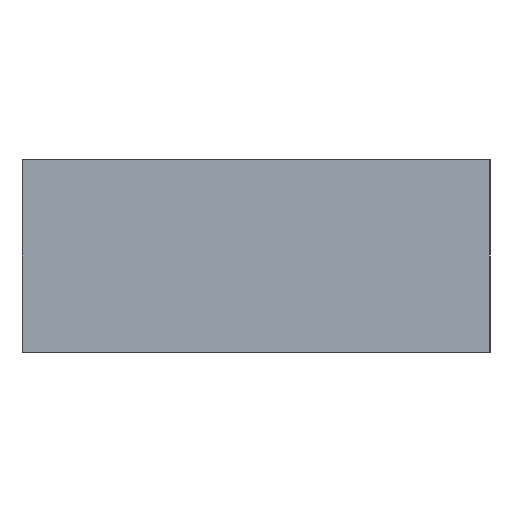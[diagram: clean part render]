
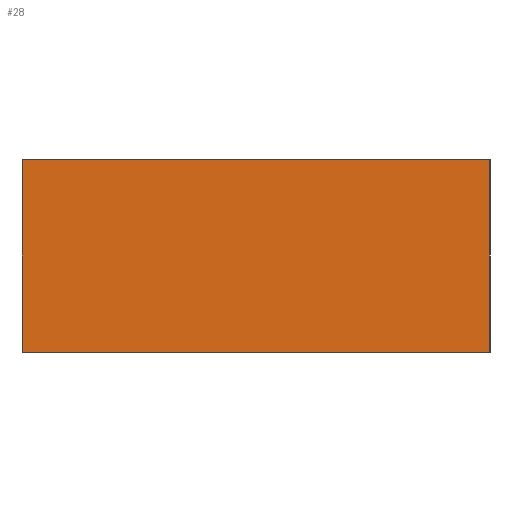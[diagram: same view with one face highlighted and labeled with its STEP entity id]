
A CAD part, left-side view. The second image highlights one B-rep face of the part: STEP entity #28.
In plain terms, the highlighted planar face has unit normal (-1, 0, 0).
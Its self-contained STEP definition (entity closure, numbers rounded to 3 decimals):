
#28 = ADVANCED_FACE('',(#29),#43,.F.);
#29 = FACE_BOUND('',#30,.F.);
#30 = EDGE_LOOP('',(#31,#66,#94,#122));
#31 = ORIENTED_EDGE('',*,*,#32,.T.);
#32 = EDGE_CURVE('',#33,#35,#37,.T.);
#33 = VERTEX_POINT('',#34);
#34 = CARTESIAN_POINT('',(0.,8.,0.));
#35 = VERTEX_POINT('',#36);
#36 = CARTESIAN_POINT('',(0.,8.,3.291));
#37 = SURFACE_CURVE('',#38,(#42,#54),.PCURVE_S1.);
#38 = LINE('',#39,#40);
#39 = CARTESIAN_POINT('',(0.,8.,0.));
#40 = VECTOR('',#41,1.);
#41 = DIRECTION('',(0.,0.,1.));
#42 = PCURVE('',#43,#48);
#43 = PLANE('',#44);
#44 = AXIS2_PLACEMENT_3D('',#45,#46,#47);
#45 = CARTESIAN_POINT('',(0.,8.,0.));
#46 = DIRECTION('',(1.,0.,0.));
#47 = DIRECTION('',(0.,-1.,0.));
#48 = DEFINITIONAL_REPRESENTATION('',(#49),#53);
#49 = LINE('',#50,#51);
#50 = CARTESIAN_POINT('',(0.,0.));
#51 = VECTOR('',#52,1.);
#52 = DIRECTION('',(0.,-1.));
#53 = ( GEOMETRIC_REPRESENTATION_CONTEXT(2) 
PARAMETRIC_REPRESENTATION_CONTEXT() REPRESENTATION_CONTEXT('2D SPACE',''
  ) );
#54 = PCURVE('',#55,#60);
#55 = PLANE('',#56);
#56 = AXIS2_PLACEMENT_3D('',#57,#58,#59);
#57 = CARTESIAN_POINT('',(35.,8.,0.));
#58 = DIRECTION('',(0.,-1.,0.));
#59 = DIRECTION('',(-1.,0.,0.));
#60 = DEFINITIONAL_REPRESENTATION('',(#61),#65);
#61 = LINE('',#62,#63);
#62 = CARTESIAN_POINT('',(35.,0.));
#63 = VECTOR('',#64,1.);
#64 = DIRECTION('',(0.,-1.));
#65 = ( GEOMETRIC_REPRESENTATION_CONTEXT(2) 
PARAMETRIC_REPRESENTATION_CONTEXT() REPRESENTATION_CONTEXT('2D SPACE',''
  ) );
#66 = ORIENTED_EDGE('',*,*,#67,.T.);
#67 = EDGE_CURVE('',#35,#68,#70,.T.);
#68 = VERTEX_POINT('',#69);
#69 = CARTESIAN_POINT('',(0.,0.,3.291));
#70 = SURFACE_CURVE('',#71,(#75,#82),.PCURVE_S1.);
#71 = LINE('',#72,#73);
#72 = CARTESIAN_POINT('',(0.,8.,3.291));
#73 = VECTOR('',#74,1.);
#74 = DIRECTION('',(0.,-1.,0.));
#75 = PCURVE('',#43,#76);
#76 = DEFINITIONAL_REPRESENTATION('',(#77),#81);
#77 = LINE('',#78,#79);
#78 = CARTESIAN_POINT('',(0.,-3.291));
#79 = VECTOR('',#80,1.);
#80 = DIRECTION('',(1.,0.));
#81 = ( GEOMETRIC_REPRESENTATION_CONTEXT(2) 
PARAMETRIC_REPRESENTATION_CONTEXT() REPRESENTATION_CONTEXT('2D SPACE',''
  ) );
#82 = PCURVE('',#83,#88);
#83 = PLANE('',#84);
#84 = AXIS2_PLACEMENT_3D('',#85,#86,#87);
#85 = CARTESIAN_POINT('',(0.,8.,3.291));
#86 = DIRECTION('',(0.,0.,-1.));
#87 = DIRECTION('',(-1.,0.,0.));
#88 = DEFINITIONAL_REPRESENTATION('',(#89),#93);
#89 = LINE('',#90,#91);
#90 = CARTESIAN_POINT('',(0.,0.));
#91 = VECTOR('',#92,1.);
#92 = DIRECTION('',(0.,-1.));
#93 = ( GEOMETRIC_REPRESENTATION_CONTEXT(2) 
PARAMETRIC_REPRESENTATION_CONTEXT() REPRESENTATION_CONTEXT('2D SPACE',''
  ) );
#94 = ORIENTED_EDGE('',*,*,#95,.F.);
#95 = EDGE_CURVE('',#96,#68,#98,.T.);
#96 = VERTEX_POINT('',#97);
#97 = CARTESIAN_POINT('',(0.,0.,0.));
#98 = SURFACE_CURVE('',#99,(#103,#110),.PCURVE_S1.);
#99 = LINE('',#100,#101);
#100 = CARTESIAN_POINT('',(0.,0.,0.));
#101 = VECTOR('',#102,1.);
#102 = DIRECTION('',(0.,0.,1.));
#103 = PCURVE('',#43,#104);
#104 = DEFINITIONAL_REPRESENTATION('',(#105),#109);
#105 = LINE('',#106,#107);
#106 = CARTESIAN_POINT('',(8.,0.));
#107 = VECTOR('',#108,1.);
#108 = DIRECTION('',(0.,-1.));
#109 = ( GEOMETRIC_REPRESENTATION_CONTEXT(2) 
PARAMETRIC_REPRESENTATION_CONTEXT() REPRESENTATION_CONTEXT('2D SPACE',''
  ) );
#110 = PCURVE('',#111,#116);
#111 = PLANE('',#112);
#112 = AXIS2_PLACEMENT_3D('',#113,#114,#115);
#113 = CARTESIAN_POINT('',(0.,0.,0.));
#114 = DIRECTION('',(0.,1.,0.));
#115 = DIRECTION('',(1.,0.,0.));
#116 = DEFINITIONAL_REPRESENTATION('',(#117),#121);
#117 = LINE('',#118,#119);
#118 = CARTESIAN_POINT('',(0.,0.));
#119 = VECTOR('',#120,1.);
#120 = DIRECTION('',(0.,-1.));
#121 = ( GEOMETRIC_REPRESENTATION_CONTEXT(2) 
PARAMETRIC_REPRESENTATION_CONTEXT() REPRESENTATION_CONTEXT('2D SPACE',''
  ) );
#122 = ORIENTED_EDGE('',*,*,#123,.F.);
#123 = EDGE_CURVE('',#33,#96,#124,.T.);
#124 = SURFACE_CURVE('',#125,(#129,#136),.PCURVE_S1.);
#125 = LINE('',#126,#127);
#126 = CARTESIAN_POINT('',(0.,8.,0.));
#127 = VECTOR('',#128,1.);
#128 = DIRECTION('',(0.,-1.,0.));
#129 = PCURVE('',#43,#130);
#130 = DEFINITIONAL_REPRESENTATION('',(#131),#135);
#131 = LINE('',#132,#133);
#132 = CARTESIAN_POINT('',(0.,0.));
#133 = VECTOR('',#134,1.);
#134 = DIRECTION('',(1.,0.));
#135 = ( GEOMETRIC_REPRESENTATION_CONTEXT(2) 
PARAMETRIC_REPRESENTATION_CONTEXT() REPRESENTATION_CONTEXT('2D SPACE',''
  ) );
#136 = PCURVE('',#137,#142);
#137 = PLANE('',#138);
#138 = AXIS2_PLACEMENT_3D('',#139,#140,#141);
#139 = CARTESIAN_POINT('',(0.,8.,0.));
#140 = DIRECTION('',(0.,0.,-1.));
#141 = DIRECTION('',(-1.,0.,0.));
#142 = DEFINITIONAL_REPRESENTATION('',(#143),#147);
#143 = LINE('',#144,#145);
#144 = CARTESIAN_POINT('',(0.,0.));
#145 = VECTOR('',#146,1.);
#146 = DIRECTION('',(0.,-1.));
#147 = ( GEOMETRIC_REPRESENTATION_CONTEXT(2) 
PARAMETRIC_REPRESENTATION_CONTEXT() REPRESENTATION_CONTEXT('2D SPACE',''
  ) );
